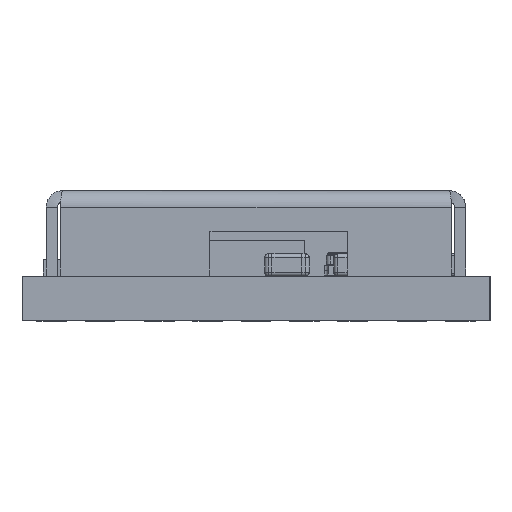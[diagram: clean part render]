
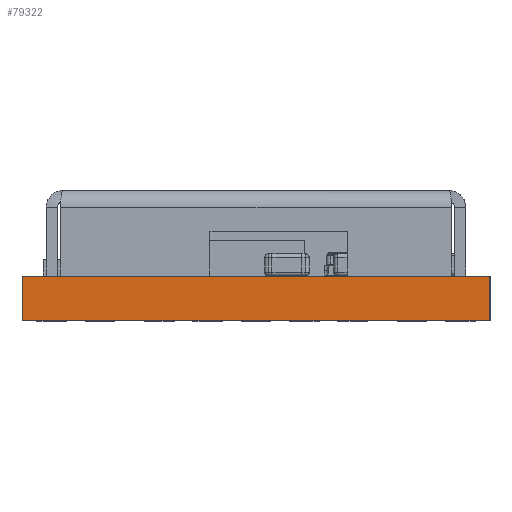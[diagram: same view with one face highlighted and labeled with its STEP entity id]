
A CAD part, left-side view. The second image highlights one B-rep face of the part: STEP entity #79322.
In plain terms, the highlighted planar face has unit normal (-1, 0, 0).
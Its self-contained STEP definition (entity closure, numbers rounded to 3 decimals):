
#2548 = PLANE ( 'NONE',  #50022 ) ;
#5201 = ORIENTED_EDGE ( 'NONE', *, *, #11178, .F. ) ;
#9451 = DIRECTION ( 'NONE',  ( -1., 0., 0. ) ) ;
#11178 = EDGE_CURVE ( 'NONE', #70584, #70020, #26123, .T. ) ;
#11504 = ORIENTED_EDGE ( 'NONE', *, *, #81267, .F. ) ;
#12165 = DIRECTION ( 'NONE',  ( 0., 1., 0. ) ) ;
#13451 = CARTESIAN_POINT ( 'NONE',  ( 0., 0., -0.599 ) ) ;
#21618 = VERTEX_POINT ( 'NONE', #57931 ) ;
#23887 = DIRECTION ( 'NONE',  ( 0., 0., 1. ) ) ;
#23904 = VECTOR ( 'NONE', #41733, 1000. ) ;
#26123 = LINE ( 'NONE', #54428, #89894 ) ;
#26649 = VECTOR ( 'NONE', #38332, 1000. ) ;
#33554 = DIRECTION ( 'NONE',  ( 0., 1., 0. ) ) ;
#38332 = DIRECTION ( 'NONE',  ( 0., 0., 1. ) ) ;
#40382 = LINE ( 'NONE', #13451, #23904 ) ;
#41733 = DIRECTION ( 'NONE',  ( 0., 0., 1. ) ) ;
#47562 = CARTESIAN_POINT ( 'NONE',  ( 0., 0., 0. ) ) ;
#50022 = AXIS2_PLACEMENT_3D ( 'NONE', #60424, #9451, #23887 ) ;
#50293 = ORIENTED_EDGE ( 'NONE', *, *, #70271, .T. ) ;
#53268 = VECTOR ( 'NONE', #33554, 1000. ) ;
#53572 = FACE_OUTER_BOUND ( 'NONE', #73875, .T. ) ;
#54428 = CARTESIAN_POINT ( 'NONE',  ( 0., 0., -0.599 ) ) ;
#57931 = CARTESIAN_POINT ( 'NONE',  ( 0., 0., 0. ) ) ;
#60412 = CARTESIAN_POINT ( 'NONE',  ( 0., 6.3, 0. ) ) ;
#60424 = CARTESIAN_POINT ( 'NONE',  ( 0., 0., -0.599 ) ) ;
#62883 = LINE ( 'NONE', #65121, #26649 ) ;
#64613 = ORIENTED_EDGE ( 'NONE', *, *, #68486, .T. ) ;
#65121 = CARTESIAN_POINT ( 'NONE',  ( 0., 6.3, -0.599 ) ) ;
#66328 = CARTESIAN_POINT ( 'NONE',  ( 0., 6.3, -0.599 ) ) ;
#68486 = EDGE_CURVE ( 'NONE', #21618, #78534, #68725, .T. ) ;
#68725 = LINE ( 'NONE', #47562, #53268 ) ;
#70020 = VERTEX_POINT ( 'NONE', #66328 ) ;
#70271 = EDGE_CURVE ( 'NONE', #70584, #21618, #40382, .T. ) ;
#70584 = VERTEX_POINT ( 'NONE', #91581 ) ;
#73875 = EDGE_LOOP ( 'NONE', ( #50293, #64613, #11504, #5201 ) ) ;
#78534 = VERTEX_POINT ( 'NONE', #60412 ) ;
#79322 = ADVANCED_FACE ( 'NONE', ( #53572 ), #2548, .T. ) ;
#81267 = EDGE_CURVE ( 'NONE', #70020, #78534, #62883, .T. ) ;
#89894 = VECTOR ( 'NONE', #12165, 1000. ) ;
#91581 = CARTESIAN_POINT ( 'NONE',  ( 0., 0., -0.599 ) ) ;
